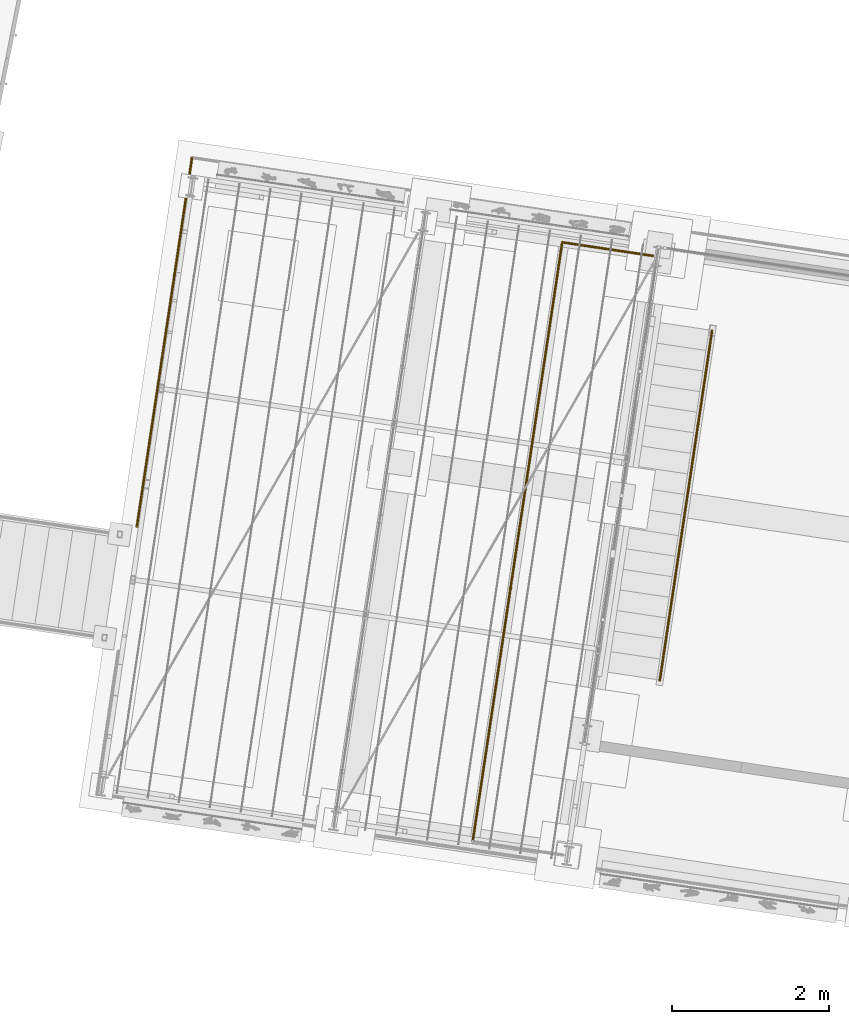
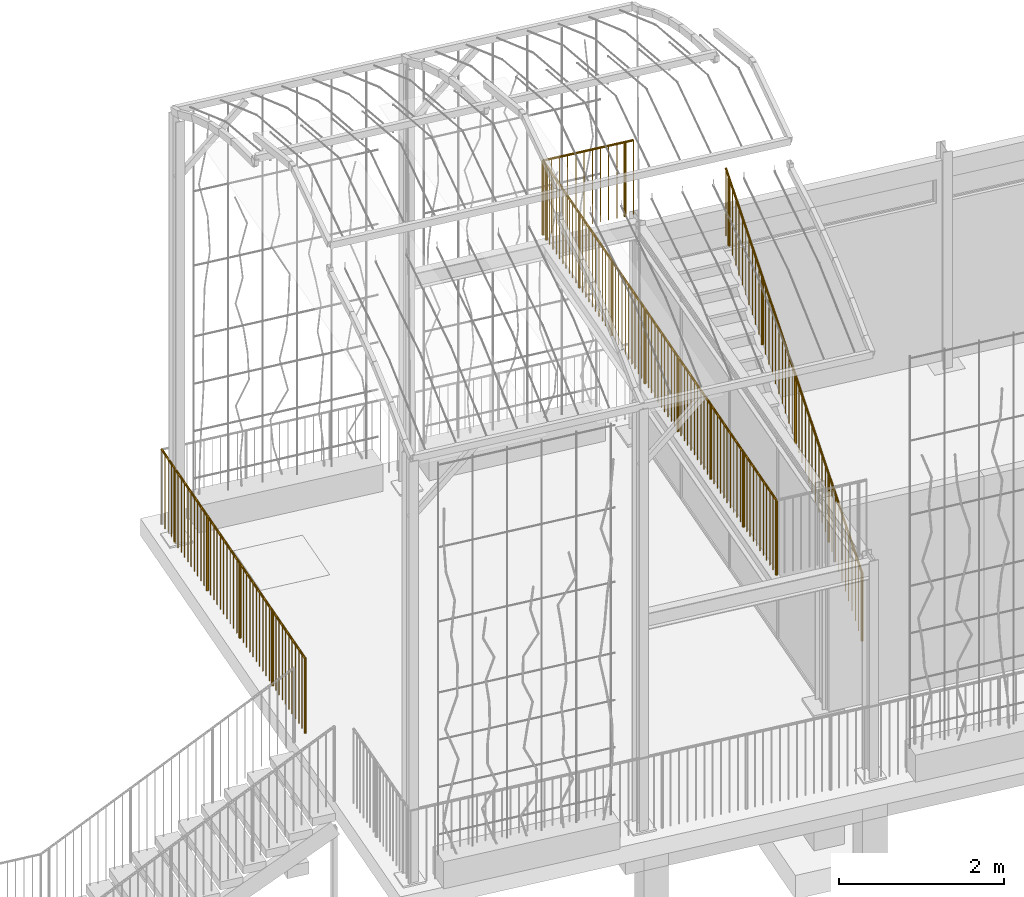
# One storey, part 138 of 142: 4 railings, 3 elements without a shape of their own.
"""IFC4 building model written with IfcOpenShell, lengths in metres."""

from ifc_helpers import new_model, si_unit, direction, frame, origin_with_axes, place, context, subcontext, project, spatial, circle, extrude, material, element, aggregate, save


model = new_model("IFC4")

# Units and contexts
model_context = context("Model", 3, precision=1e-05, world=origin_with_axes(), true_north=direction((0.0, 1.0)))
body_context = subcontext(model_context, "Body", "Model", "MODEL_VIEW")
ifc_project = project(units=[si_unit("LENGTHUNIT", "METRE"), si_unit("AREAUNIT", "SQUARE_METRE"), si_unit("VOLUMEUNIT", "CUBIC_METRE")], contexts=[model_context])

# Site, building, storey
site_placement = place(None, origin_with_axes())
site = spatial("IfcSite", under=ifc_project, at=site_placement, Name="Lares · Rua das Mercês · artigo 4771")
building_placement = place(site_placement, frame((15.0, 9.7, 14.65), z_axis=(0.0, 0.0, 1.0), x_axis=(0.989015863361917, -0.147809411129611, 0.0)))
building = spatial("IfcBuilding", under=site, at=building_placement, Name="Casa Sobreposta")
storey_placement = place(building_placement, origin_with_axes())
storey = spatial("IfcBuildingStorey", under=building, at=storey_placement, Name="00 · Habitação e estacionamento", Elevation=14.65)

# Stair, railing
stair_placement = place(storey_placement, origin_with_axes())
stair = element("IfcStair", 1, at=stair_placement, inside=storey, Name="Escada sala", PredefinedType="STRAIGHT_RUN_STAIR")
ifc_material = material(Name="Aço pintado / Stahl lackiert", Category="steel")
railing_1_placement = place(stair_placement, origin_with_axes())
railing_1 = element("IfcRailing", 2, at=railing_1_placement, material=ifc_material, Name="Corrimão sala", PredefinedType="GUARDRAIL", context=body_context, shape_type="SweptSolid", body=[
    extrude(circle(Radius=0.015), frame((0.83, 0.9475, 1.18), z_axis=(0.0, 0.827216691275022, 0.561883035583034), x_axis=(1.0, 0.0, 0.0)), (0.0, 0.0, 1.0), 5.44597328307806),
    extrude(circle(Radius=0.0175), frame((0.83, 0.9475, 0.18), z_axis=(0.0, 0.0, 1.0), x_axis=(1.0, 0.0, 0.0)), (0.0, 0.0, 1.0), 1.0),
    extrude(circle(Radius=0.006), frame((0.83, 1.05737804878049, 0.254634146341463), z_axis=(0.0, 0.0, 1.0), x_axis=(1.0, 0.0, 0.0)), (0.0, 0.0, 1.0), 1.0),
    extrude(circle(Radius=0.006), frame((0.83, 1.16725609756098, 0.329268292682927), z_axis=(0.0, 0.0, 1.0), x_axis=(1.0, 0.0, 0.0)), (0.0, 0.0, 1.0), 1.0),
    extrude(circle(Radius=0.006), frame((0.83, 1.27713414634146, 0.40390243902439), z_axis=(0.0, 0.0, 1.0), x_axis=(1.0, 0.0, 0.0)), (0.0, 0.0, 1.0), 1.0),
    extrude(circle(Radius=0.006), frame((0.83, 1.38701219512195, 0.478536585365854), z_axis=(0.0, 0.0, 1.0), x_axis=(1.0, 0.0, 0.0)), (0.0, 0.0, 1.0), 1.0),
    extrude(circle(Radius=0.006), frame((0.83, 1.49689024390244, 0.553170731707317), z_axis=(0.0, 0.0, 1.0), x_axis=(1.0, 0.0, 0.0)), (0.0, 0.0, 1.0), 1.0),
    extrude(circle(Radius=0.006), frame((0.83, 1.60676829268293, 0.62780487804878), z_axis=(0.0, 0.0, 1.0), x_axis=(1.0, 0.0, 0.0)), (0.0, 0.0, 1.0), 1.0),
    extrude(circle(Radius=0.006), frame((0.83, 1.71664634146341, 0.702439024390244), z_axis=(0.0, 0.0, 1.0), x_axis=(1.0, 0.0, 0.0)), (0.0, 0.0, 1.0), 1.0),
    extrude(circle(Radius=0.006), frame((0.83, 1.8265243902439, 0.777073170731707), z_axis=(0.0, 0.0, 1.0), x_axis=(1.0, 0.0, 0.0)), (0.0, 0.0, 1.0), 1.0),
    extrude(circle(Radius=0.006), frame((0.83, 1.93640243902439, 0.851707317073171), z_axis=(0.0, 0.0, 1.0), x_axis=(1.0, 0.0, 0.0)), (0.0, 0.0, 1.0), 1.0),
    extrude(circle(Radius=0.0175), frame((0.83, 2.04628048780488, 0.926341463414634), z_axis=(0.0, 0.0, 1.0), x_axis=(1.0, 0.0, 0.0)), (0.0, 0.0, 1.0), 1.0),
    extrude(circle(Radius=0.006), frame((0.83, 2.15615853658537, 1.0009756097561), z_axis=(0.0, 0.0, 1.0), x_axis=(1.0, 0.0, 0.0)), (0.0, 0.0, 1.0), 1.0),
    extrude(circle(Radius=0.006), frame((0.83, 2.26603658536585, 1.07560975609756), z_axis=(0.0, 0.0, 1.0), x_axis=(1.0, 0.0, 0.0)), (0.0, 0.0, 1.0), 1.0),
    extrude(circle(Radius=0.006), frame((0.83, 2.37591463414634, 1.15024390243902), z_axis=(0.0, 0.0, 1.0), x_axis=(1.0, 0.0, 0.0)), (0.0, 0.0, 1.0), 1.0),
    extrude(circle(Radius=0.006), frame((0.83, 2.48579268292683, 1.22487804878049), z_axis=(0.0, 0.0, 1.0), x_axis=(1.0, 0.0, 0.0)), (0.0, 0.0, 1.0), 1.0),
    extrude(circle(Radius=0.006), frame((0.83, 2.59567073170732, 1.29951219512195), z_axis=(0.0, 0.0, 1.0), x_axis=(1.0, 0.0, 0.0)), (0.0, 0.0, 1.0), 1.0),
    extrude(circle(Radius=0.006), frame((0.83, 2.7055487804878, 1.37414634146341), z_axis=(0.0, 0.0, 1.0), x_axis=(1.0, 0.0, 0.0)), (0.0, 0.0, 1.0), 1.0),
    extrude(circle(Radius=0.006), frame((0.83, 2.81542682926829, 1.44878048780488), z_axis=(0.0, 0.0, 1.0), x_axis=(1.0, 0.0, 0.0)), (0.0, 0.0, 1.0), 1.0),
    extrude(circle(Radius=0.006), frame((0.83, 2.92530487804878, 1.52341463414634), z_axis=(0.0, 0.0, 1.0), x_axis=(1.0, 0.0, 0.0)), (0.0, 0.0, 1.0), 1.0),
    extrude(circle(Radius=0.006), frame((0.83, 3.03518292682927, 1.5980487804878), z_axis=(0.0, 0.0, 1.0), x_axis=(1.0, 0.0, 0.0)), (0.0, 0.0, 1.0), 1.0),
    extrude(circle(Radius=0.0175), frame((0.83, 3.14506097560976, 1.67268292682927), z_axis=(0.0, 0.0, 1.0), x_axis=(1.0, 0.0, 0.0)), (0.0, 0.0, 1.0), 1.0),
    extrude(circle(Radius=0.006), frame((0.83, 3.25493902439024, 1.74731707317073), z_axis=(0.0, 0.0, 1.0), x_axis=(1.0, 0.0, 0.0)), (0.0, 0.0, 1.0), 1.0),
    extrude(circle(Radius=0.006), frame((0.83, 3.36481707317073, 1.8219512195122), z_axis=(0.0, 0.0, 1.0), x_axis=(1.0, 0.0, 0.0)), (0.0, 0.0, 1.0), 1.0),
    extrude(circle(Radius=0.006), frame((0.83, 3.47469512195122, 1.89658536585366), z_axis=(0.0, 0.0, 1.0), x_axis=(1.0, 0.0, 0.0)), (0.0, 0.0, 1.0), 1.0),
    extrude(circle(Radius=0.006), frame((0.83, 3.58457317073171, 1.97121951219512), z_axis=(0.0, 0.0, 1.0), x_axis=(1.0, 0.0, 0.0)), (0.0, 0.0, 1.0), 1.0),
    extrude(circle(Radius=0.006), frame((0.83, 3.6944512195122, 2.04585365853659), z_axis=(0.0, 0.0, 1.0), x_axis=(1.0, 0.0, 0.0)), (0.0, 0.0, 1.0), 1.0),
    extrude(circle(Radius=0.006), frame((0.83, 3.80432926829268, 2.12048780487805), z_axis=(0.0, 0.0, 1.0), x_axis=(1.0, 0.0, 0.0)), (0.0, 0.0, 1.0), 1.0),
    extrude(circle(Radius=0.006), frame((0.83, 3.91420731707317, 2.19512195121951), z_axis=(0.0, 0.0, 1.0), x_axis=(1.0, 0.0, 0.0)), (0.0, 0.0, 1.0), 1.0),
    extrude(circle(Radius=0.006), frame((0.83, 4.02408536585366, 2.26975609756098), z_axis=(0.0, 0.0, 1.0), x_axis=(1.0, 0.0, 0.0)), (0.0, 0.0, 1.0), 1.0),
    extrude(circle(Radius=0.006), frame((0.83, 4.13396341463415, 2.34439024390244), z_axis=(0.0, 0.0, 1.0), x_axis=(1.0, 0.0, 0.0)), (0.0, 0.0, 1.0), 1.0),
    extrude(circle(Radius=0.0175), frame((0.83, 4.24384146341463, 2.4190243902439), z_axis=(0.0, 0.0, 1.0), x_axis=(1.0, 0.0, 0.0)), (0.0, 0.0, 1.0), 1.0),
    extrude(circle(Radius=0.006), frame((0.83, 4.35371951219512, 2.49365853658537), z_axis=(0.0, 0.0, 1.0), x_axis=(1.0, 0.0, 0.0)), (0.0, 0.0, 1.0), 1.0),
    extrude(circle(Radius=0.006), frame((0.83, 4.46359756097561, 2.56829268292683), z_axis=(0.0, 0.0, 1.0), x_axis=(1.0, 0.0, 0.0)), (0.0, 0.0, 1.0), 1.0),
    extrude(circle(Radius=0.006), frame((0.83, 4.5734756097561, 2.64292682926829), z_axis=(0.0, 0.0, 1.0), x_axis=(1.0, 0.0, 0.0)), (0.0, 0.0, 1.0), 1.0),
    extrude(circle(Radius=0.006), frame((0.83, 4.68335365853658, 2.71756097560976), z_axis=(0.0, 0.0, 1.0), x_axis=(1.0, 0.0, 0.0)), (0.0, 0.0, 1.0), 1.0),
    extrude(circle(Radius=0.006), frame((0.83, 4.79323170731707, 2.79219512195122), z_axis=(0.0, 0.0, 1.0), x_axis=(1.0, 0.0, 0.0)), (0.0, 0.0, 1.0), 1.0),
    extrude(circle(Radius=0.006), frame((0.83, 4.90310975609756, 2.86682926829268), z_axis=(0.0, 0.0, 1.0), x_axis=(1.0, 0.0, 0.0)), (0.0, 0.0, 1.0), 1.0),
    extrude(circle(Radius=0.006), frame((0.83, 5.01298780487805, 2.94146341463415), z_axis=(0.0, 0.0, 1.0), x_axis=(1.0, 0.0, 0.0)), (0.0, 0.0, 1.0), 1.0),
    extrude(circle(Radius=0.006), frame((0.83, 5.12286585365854, 3.01609756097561), z_axis=(0.0, 0.0, 1.0), x_axis=(1.0, 0.0, 0.0)), (0.0, 0.0, 1.0), 1.0),
    extrude(circle(Radius=0.006), frame((0.83, 5.23274390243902, 3.09073170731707), z_axis=(0.0, 0.0, 1.0), x_axis=(1.0, 0.0, 0.0)), (0.0, 0.0, 1.0), 1.0),
    extrude(circle(Radius=0.0175), frame((0.83, 5.34262195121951, 3.16536585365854), z_axis=(0.0, 0.0, 1.0), x_axis=(1.0, 0.0, 0.0)), (0.0, 0.0, 1.0), 1.0),
    extrude(circle(Radius=0.006), frame((0.83, 5.4525, 3.24), z_axis=(0.0, 0.0, 1.0), x_axis=(1.0, 0.0, 0.0)), (0.0, 0.0, 1.0), 1.0),
])
aggregate(stair, [railing_1])

# Assembly, railing
assembly_1_placement = place(storey_placement, origin_with_axes())
assembly_1 = element("IfcElementAssembly", 3, at=assembly_1_placement, inside=storey, Name="Pódio · terraço, casa térrea e cisterna", ObjectType="CISTERN_PODIUM", PredefinedType="USERDEFINED")
railing_2_placement = place(assembly_1_placement, origin_with_axes())
railing_2 = element("IfcRailing", 4, at=railing_2_placement, material=ifc_material, Name="Pódio · guarda poente norte", PredefinedType="GUARDRAIL", context=body_context, shape_type="SweptSolid", body=[
    extrude(circle(Radius=0.015), frame((-6.05, 1.9, 1.06), z_axis=(0.0, 1.0, 0.0), x_axis=(1.0, 0.0, 0.0)), (0.0, 0.0, 1.0), 4.75),
    extrude(circle(Radius=0.0175), frame((-6.05, 1.9, -0.04), z_axis=(0.0, 0.0, 1.0), x_axis=(1.0, 0.0, 0.0)), (0.0, 0.0, 1.0), 1.1),
    extrude(circle(Radius=0.006), frame((-6.05, 2.00795454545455, -0.04), z_axis=(0.0, 0.0, 1.0), x_axis=(1.0, 0.0, 0.0)), (0.0, 0.0, 1.0), 1.1),
    extrude(circle(Radius=0.006), frame((-6.05, 2.11590909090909, -0.04), z_axis=(0.0, 0.0, 1.0), x_axis=(1.0, 0.0, 0.0)), (0.0, 0.0, 1.0), 1.1),
    extrude(circle(Radius=0.006), frame((-6.05, 2.22386363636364, -0.04), z_axis=(0.0, 0.0, 1.0), x_axis=(1.0, 0.0, 0.0)), (0.0, 0.0, 1.0), 1.1),
    extrude(circle(Radius=0.006), frame((-6.05, 2.33181818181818, -0.04), z_axis=(0.0, 0.0, 1.0), x_axis=(1.0, 0.0, 0.0)), (0.0, 0.0, 1.0), 1.1),
    extrude(circle(Radius=0.006), frame((-6.05, 2.43977272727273, -0.04), z_axis=(0.0, 0.0, 1.0), x_axis=(1.0, 0.0, 0.0)), (0.0, 0.0, 1.0), 1.1),
    extrude(circle(Radius=0.006), frame((-6.05, 2.54772727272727, -0.04), z_axis=(0.0, 0.0, 1.0), x_axis=(1.0, 0.0, 0.0)), (0.0, 0.0, 1.0), 1.1),
    extrude(circle(Radius=0.006), frame((-6.05, 2.65568181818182, -0.04), z_axis=(0.0, 0.0, 1.0), x_axis=(1.0, 0.0, 0.0)), (0.0, 0.0, 1.0), 1.1),
    extrude(circle(Radius=0.006), frame((-6.05, 2.76363636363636, -0.04), z_axis=(0.0, 0.0, 1.0), x_axis=(1.0, 0.0, 0.0)), (0.0, 0.0, 1.0), 1.1),
    extrude(circle(Radius=0.006), frame((-6.05, 2.87159090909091, -0.04), z_axis=(0.0, 0.0, 1.0), x_axis=(1.0, 0.0, 0.0)), (0.0, 0.0, 1.0), 1.1),
    extrude(circle(Radius=0.0175), frame((-6.05, 2.97954545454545, -0.04), z_axis=(0.0, 0.0, 1.0), x_axis=(1.0, 0.0, 0.0)), (0.0, 0.0, 1.0), 1.1),
    extrude(circle(Radius=0.006), frame((-6.05, 3.0875, -0.04), z_axis=(0.0, 0.0, 1.0), x_axis=(1.0, 0.0, 0.0)), (0.0, 0.0, 1.0), 1.1),
    extrude(circle(Radius=0.006), frame((-6.05, 3.19545454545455, -0.04), z_axis=(0.0, 0.0, 1.0), x_axis=(1.0, 0.0, 0.0)), (0.0, 0.0, 1.0), 1.1),
    extrude(circle(Radius=0.006), frame((-6.05, 3.30340909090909, -0.04), z_axis=(0.0, 0.0, 1.0), x_axis=(1.0, 0.0, 0.0)), (0.0, 0.0, 1.0), 1.1),
    extrude(circle(Radius=0.006), frame((-6.05, 3.41136363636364, -0.04), z_axis=(0.0, 0.0, 1.0), x_axis=(1.0, 0.0, 0.0)), (0.0, 0.0, 1.0), 1.1),
    extrude(circle(Radius=0.006), frame((-6.05, 3.51931818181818, -0.04), z_axis=(0.0, 0.0, 1.0), x_axis=(1.0, 0.0, 0.0)), (0.0, 0.0, 1.0), 1.1),
    extrude(circle(Radius=0.006), frame((-6.05, 3.62727272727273, -0.04), z_axis=(0.0, 0.0, 1.0), x_axis=(1.0, 0.0, 0.0)), (0.0, 0.0, 1.0), 1.1),
    extrude(circle(Radius=0.006), frame((-6.05, 3.73522727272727, -0.04), z_axis=(0.0, 0.0, 1.0), x_axis=(1.0, 0.0, 0.0)), (0.0, 0.0, 1.0), 1.1),
    extrude(circle(Radius=0.006), frame((-6.05, 3.84318181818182, -0.04), z_axis=(0.0, 0.0, 1.0), x_axis=(1.0, 0.0, 0.0)), (0.0, 0.0, 1.0), 1.1),
    extrude(circle(Radius=0.006), frame((-6.05, 3.95113636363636, -0.04), z_axis=(0.0, 0.0, 1.0), x_axis=(1.0, 0.0, 0.0)), (0.0, 0.0, 1.0), 1.1),
    extrude(circle(Radius=0.0175), frame((-6.05, 4.05909090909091, -0.04), z_axis=(0.0, 0.0, 1.0), x_axis=(1.0, 0.0, 0.0)), (0.0, 0.0, 1.0), 1.1),
    extrude(circle(Radius=0.006), frame((-6.05, 4.16704545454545, -0.04), z_axis=(0.0, 0.0, 1.0), x_axis=(1.0, 0.0, 0.0)), (0.0, 0.0, 1.0), 1.1),
    extrude(circle(Radius=0.006), frame((-6.05, 4.275, -0.04), z_axis=(0.0, 0.0, 1.0), x_axis=(1.0, 0.0, 0.0)), (0.0, 0.0, 1.0), 1.1),
    extrude(circle(Radius=0.006), frame((-6.05, 4.38295454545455, -0.04), z_axis=(0.0, 0.0, 1.0), x_axis=(1.0, 0.0, 0.0)), (0.0, 0.0, 1.0), 1.1),
    extrude(circle(Radius=0.006), frame((-6.05, 4.49090909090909, -0.04), z_axis=(0.0, 0.0, 1.0), x_axis=(1.0, 0.0, 0.0)), (0.0, 0.0, 1.0), 1.1),
    extrude(circle(Radius=0.006), frame((-6.05, 4.59886363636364, -0.04), z_axis=(0.0, 0.0, 1.0), x_axis=(1.0, 0.0, 0.0)), (0.0, 0.0, 1.0), 1.1),
    extrude(circle(Radius=0.006), frame((-6.05, 4.70681818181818, -0.04), z_axis=(0.0, 0.0, 1.0), x_axis=(1.0, 0.0, 0.0)), (0.0, 0.0, 1.0), 1.1),
    extrude(circle(Radius=0.006), frame((-6.05, 4.81477272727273, -0.04), z_axis=(0.0, 0.0, 1.0), x_axis=(1.0, 0.0, 0.0)), (0.0, 0.0, 1.0), 1.1),
    extrude(circle(Radius=0.006), frame((-6.05, 4.92272727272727, -0.04), z_axis=(0.0, 0.0, 1.0), x_axis=(1.0, 0.0, 0.0)), (0.0, 0.0, 1.0), 1.1),
    extrude(circle(Radius=0.006), frame((-6.05, 5.03068181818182, -0.04), z_axis=(0.0, 0.0, 1.0), x_axis=(1.0, 0.0, 0.0)), (0.0, 0.0, 1.0), 1.1),
    extrude(circle(Radius=0.0175), frame((-6.05, 5.13863636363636, -0.04), z_axis=(0.0, 0.0, 1.0), x_axis=(1.0, 0.0, 0.0)), (0.0, 0.0, 1.0), 1.1),
    extrude(circle(Radius=0.006), frame((-6.05, 5.24659090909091, -0.04), z_axis=(0.0, 0.0, 1.0), x_axis=(1.0, 0.0, 0.0)), (0.0, 0.0, 1.0), 1.1),
    extrude(circle(Radius=0.006), frame((-6.05, 5.35454545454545, -0.04), z_axis=(0.0, 0.0, 1.0), x_axis=(1.0, 0.0, 0.0)), (0.0, 0.0, 1.0), 1.1),
    extrude(circle(Radius=0.006), frame((-6.05, 5.4625, -0.04), z_axis=(0.0, 0.0, 1.0), x_axis=(1.0, 0.0, 0.0)), (0.0, 0.0, 1.0), 1.1),
    extrude(circle(Radius=0.006), frame((-6.05, 5.57045454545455, -0.04), z_axis=(0.0, 0.0, 1.0), x_axis=(1.0, 0.0, 0.0)), (0.0, 0.0, 1.0), 1.1),
    extrude(circle(Radius=0.006), frame((-6.05, 5.67840909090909, -0.04), z_axis=(0.0, 0.0, 1.0), x_axis=(1.0, 0.0, 0.0)), (0.0, 0.0, 1.0), 1.1),
    extrude(circle(Radius=0.006), frame((-6.05, 5.78636363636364, -0.04), z_axis=(0.0, 0.0, 1.0), x_axis=(1.0, 0.0, 0.0)), (0.0, 0.0, 1.0), 1.1),
    extrude(circle(Radius=0.006), frame((-6.05, 5.89431818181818, -0.04), z_axis=(0.0, 0.0, 1.0), x_axis=(1.0, 0.0, 0.0)), (0.0, 0.0, 1.0), 1.1),
    extrude(circle(Radius=0.006), frame((-6.05, 6.00227272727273, -0.04), z_axis=(0.0, 0.0, 1.0), x_axis=(1.0, 0.0, 0.0)), (0.0, 0.0, 1.0), 1.1),
    extrude(circle(Radius=0.006), frame((-6.05, 6.11022727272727, -0.04), z_axis=(0.0, 0.0, 1.0), x_axis=(1.0, 0.0, 0.0)), (0.0, 0.0, 1.0), 1.1),
    extrude(circle(Radius=0.0175), frame((-6.05, 6.21818181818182, -0.04), z_axis=(0.0, 0.0, 1.0), x_axis=(1.0, 0.0, 0.0)), (0.0, 0.0, 1.0), 1.1),
    extrude(circle(Radius=0.006), frame((-6.05, 6.32613636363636, -0.04), z_axis=(0.0, 0.0, 1.0), x_axis=(1.0, 0.0, 0.0)), (0.0, 0.0, 1.0), 1.1),
    extrude(circle(Radius=0.006), frame((-6.05, 6.43409090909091, -0.04), z_axis=(0.0, 0.0, 1.0), x_axis=(1.0, 0.0, 0.0)), (0.0, 0.0, 1.0), 1.1),
    extrude(circle(Radius=0.006), frame((-6.05, 6.54204545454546, -0.04), z_axis=(0.0, 0.0, 1.0), x_axis=(1.0, 0.0, 0.0)), (0.0, 0.0, 1.0), 1.1),
    extrude(circle(Radius=0.006), frame((-6.05, 6.65, -0.04), z_axis=(0.0, 0.0, 1.0), x_axis=(1.0, 0.0, 0.0)), (0.0, 0.0, 1.0), 1.1),
])
aggregate(assembly_1, [railing_2])

# Assembly, railings
assembly_2_placement = place(storey_placement, origin_with_axes())
assembly_2 = element("IfcElementAssembly", 5, at=assembly_2_placement, inside=storey, Name="Pérgola · prolongamento da estufa 6 m", ObjectType="PERGOLA_GREENHOUSE_EXTENSION", PredefinedType="USERDEFINED")
railing_3_placement = place(assembly_2_placement, origin_with_axes())
railing_3 = element("IfcRailing", 6, at=railing_3_placement, material=ifc_material, Name="Varanda · guarda", PredefinedType="GUARDRAIL", context=body_context, shape_type="SweptSolid", body=[
    extrude(circle(Radius=0.015), frame((-1.225, -1.44, 4.34), z_axis=(0.0, 1.0, 0.0), x_axis=(1.0, 0.0, 0.0)), (0.0, 0.0, 1.0), 7.72),
    extrude(circle(Radius=0.0175), frame((-1.225, -1.44, 3.24), z_axis=(0.0, 0.0, 1.0), x_axis=(1.0, 0.0, 0.0)), (0.0, 0.0, 1.0), 1.1),
    extrude(circle(Radius=0.006), frame((-1.225, -1.3312676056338, 3.24), z_axis=(0.0, 0.0, 1.0), x_axis=(1.0, 0.0, 0.0)), (0.0, 0.0, 1.0), 1.1),
    extrude(circle(Radius=0.006), frame((-1.225, -1.22253521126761, 3.24), z_axis=(0.0, 0.0, 1.0), x_axis=(1.0, 0.0, 0.0)), (0.0, 0.0, 1.0), 1.1),
    extrude(circle(Radius=0.006), frame((-1.225, -1.11380281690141, 3.24), z_axis=(0.0, 0.0, 1.0), x_axis=(1.0, 0.0, 0.0)), (0.0, 0.0, 1.0), 1.1),
    extrude(circle(Radius=0.006), frame((-1.225, -1.00507042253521, 3.24), z_axis=(0.0, 0.0, 1.0), x_axis=(1.0, 0.0, 0.0)), (0.0, 0.0, 1.0), 1.1),
    extrude(circle(Radius=0.006), frame((-1.225, -0.896338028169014, 3.24), z_axis=(0.0, 0.0, 1.0), x_axis=(1.0, 0.0, 0.0)), (0.0, 0.0, 1.0), 1.1),
    extrude(circle(Radius=0.006), frame((-1.225, -0.787605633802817, 3.24), z_axis=(0.0, 0.0, 1.0), x_axis=(1.0, 0.0, 0.0)), (0.0, 0.0, 1.0), 1.1),
    extrude(circle(Radius=0.006), frame((-1.225, -0.67887323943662, 3.24), z_axis=(0.0, 0.0, 1.0), x_axis=(1.0, 0.0, 0.0)), (0.0, 0.0, 1.0), 1.1),
    extrude(circle(Radius=0.006), frame((-1.225, -0.570140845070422, 3.24), z_axis=(0.0, 0.0, 1.0), x_axis=(1.0, 0.0, 0.0)), (0.0, 0.0, 1.0), 1.1),
    extrude(circle(Radius=0.006), frame((-1.225, -0.461408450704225, 3.24), z_axis=(0.0, 0.0, 1.0), x_axis=(1.0, 0.0, 0.0)), (0.0, 0.0, 1.0), 1.1),
    extrude(circle(Radius=0.0175), frame((-1.225, -0.352676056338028, 3.24), z_axis=(0.0, 0.0, 1.0), x_axis=(1.0, 0.0, 0.0)), (0.0, 0.0, 1.0), 1.1),
    extrude(circle(Radius=0.006), frame((-1.225, -0.243943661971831, 3.24), z_axis=(0.0, 0.0, 1.0), x_axis=(1.0, 0.0, 0.0)), (0.0, 0.0, 1.0), 1.1),
    extrude(circle(Radius=0.006), frame((-1.225, -0.135211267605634, 3.24), z_axis=(0.0, 0.0, 1.0), x_axis=(1.0, 0.0, 0.0)), (0.0, 0.0, 1.0), 1.1),
    extrude(circle(Radius=0.006), frame((-1.225, -0.0264788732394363, 3.24), z_axis=(0.0, 0.0, 1.0), x_axis=(1.0, 0.0, 0.0)), (0.0, 0.0, 1.0), 1.1),
    extrude(circle(Radius=0.006), frame((-1.225, 0.0822535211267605, 3.24), z_axis=(0.0, 0.0, 1.0), x_axis=(1.0, 0.0, 0.0)), (0.0, 0.0, 1.0), 1.1),
    extrude(circle(Radius=0.006), frame((-1.225, 0.190985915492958, 3.24), z_axis=(0.0, 0.0, 1.0), x_axis=(1.0, 0.0, 0.0)), (0.0, 0.0, 1.0), 1.1),
    extrude(circle(Radius=0.006), frame((-1.225, 0.299718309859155, 3.24), z_axis=(0.0, 0.0, 1.0), x_axis=(1.0, 0.0, 0.0)), (0.0, 0.0, 1.0), 1.1),
    extrude(circle(Radius=0.006), frame((-1.225, 0.408450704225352, 3.24), z_axis=(0.0, 0.0, 1.0), x_axis=(1.0, 0.0, 0.0)), (0.0, 0.0, 1.0), 1.1),
    extrude(circle(Radius=0.006), frame((-1.225, 0.51718309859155, 3.24), z_axis=(0.0, 0.0, 1.0), x_axis=(1.0, 0.0, 0.0)), (0.0, 0.0, 1.0), 1.1),
    extrude(circle(Radius=0.006), frame((-1.225, 0.625915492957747, 3.24), z_axis=(0.0, 0.0, 1.0), x_axis=(1.0, 0.0, 0.0)), (0.0, 0.0, 1.0), 1.1),
    extrude(circle(Radius=0.0175), frame((-1.225, 0.734647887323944, 3.24), z_axis=(0.0, 0.0, 1.0), x_axis=(1.0, 0.0, 0.0)), (0.0, 0.0, 1.0), 1.1),
    extrude(circle(Radius=0.006), frame((-1.225, 0.843380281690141, 3.24), z_axis=(0.0, 0.0, 1.0), x_axis=(1.0, 0.0, 0.0)), (0.0, 0.0, 1.0), 1.1),
    extrude(circle(Radius=0.006), frame((-1.225, 0.952112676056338, 3.24), z_axis=(0.0, 0.0, 1.0), x_axis=(1.0, 0.0, 0.0)), (0.0, 0.0, 1.0), 1.1),
    extrude(circle(Radius=0.006), frame((-1.225, 1.06084507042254, 3.24), z_axis=(0.0, 0.0, 1.0), x_axis=(1.0, 0.0, 0.0)), (0.0, 0.0, 1.0), 1.1),
    extrude(circle(Radius=0.006), frame((-1.225, 1.16957746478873, 3.24), z_axis=(0.0, 0.0, 1.0), x_axis=(1.0, 0.0, 0.0)), (0.0, 0.0, 1.0), 1.1),
    extrude(circle(Radius=0.006), frame((-1.225, 1.27830985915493, 3.24), z_axis=(0.0, 0.0, 1.0), x_axis=(1.0, 0.0, 0.0)), (0.0, 0.0, 1.0), 1.1),
    extrude(circle(Radius=0.006), frame((-1.225, 1.38704225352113, 3.24), z_axis=(0.0, 0.0, 1.0), x_axis=(1.0, 0.0, 0.0)), (0.0, 0.0, 1.0), 1.1),
    extrude(circle(Radius=0.006), frame((-1.225, 1.49577464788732, 3.24), z_axis=(0.0, 0.0, 1.0), x_axis=(1.0, 0.0, 0.0)), (0.0, 0.0, 1.0), 1.1),
    extrude(circle(Radius=0.006), frame((-1.225, 1.60450704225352, 3.24), z_axis=(0.0, 0.0, 1.0), x_axis=(1.0, 0.0, 0.0)), (0.0, 0.0, 1.0), 1.1),
    extrude(circle(Radius=0.006), frame((-1.225, 1.71323943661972, 3.24), z_axis=(0.0, 0.0, 1.0), x_axis=(1.0, 0.0, 0.0)), (0.0, 0.0, 1.0), 1.1),
    extrude(circle(Radius=0.0175), frame((-1.225, 1.82197183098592, 3.24), z_axis=(0.0, 0.0, 1.0), x_axis=(1.0, 0.0, 0.0)), (0.0, 0.0, 1.0), 1.1),
    extrude(circle(Radius=0.006), frame((-1.225, 1.93070422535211, 3.24), z_axis=(0.0, 0.0, 1.0), x_axis=(1.0, 0.0, 0.0)), (0.0, 0.0, 1.0), 1.1),
    extrude(circle(Radius=0.006), frame((-1.225, 2.03943661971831, 3.24), z_axis=(0.0, 0.0, 1.0), x_axis=(1.0, 0.0, 0.0)), (0.0, 0.0, 1.0), 1.1),
    extrude(circle(Radius=0.006), frame((-1.225, 2.14816901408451, 3.24), z_axis=(0.0, 0.0, 1.0), x_axis=(1.0, 0.0, 0.0)), (0.0, 0.0, 1.0), 1.1),
    extrude(circle(Radius=0.006), frame((-1.225, 2.2569014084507, 3.24), z_axis=(0.0, 0.0, 1.0), x_axis=(1.0, 0.0, 0.0)), (0.0, 0.0, 1.0), 1.1),
    extrude(circle(Radius=0.006), frame((-1.225, 2.3656338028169, 3.24), z_axis=(0.0, 0.0, 1.0), x_axis=(1.0, 0.0, 0.0)), (0.0, 0.0, 1.0), 1.1),
    extrude(circle(Radius=0.006), frame((-1.225, 2.4743661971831, 3.24), z_axis=(0.0, 0.0, 1.0), x_axis=(1.0, 0.0, 0.0)), (0.0, 0.0, 1.0), 1.1),
    extrude(circle(Radius=0.006), frame((-1.225, 2.5830985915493, 3.24), z_axis=(0.0, 0.0, 1.0), x_axis=(1.0, 0.0, 0.0)), (0.0, 0.0, 1.0), 1.1),
    extrude(circle(Radius=0.006), frame((-1.225, 2.69183098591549, 3.24), z_axis=(0.0, 0.0, 1.0), x_axis=(1.0, 0.0, 0.0)), (0.0, 0.0, 1.0), 1.1),
    extrude(circle(Radius=0.006), frame((-1.225, 2.80056338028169, 3.24), z_axis=(0.0, 0.0, 1.0), x_axis=(1.0, 0.0, 0.0)), (0.0, 0.0, 1.0), 1.1),
    extrude(circle(Radius=0.0175), frame((-1.225, 2.90929577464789, 3.24), z_axis=(0.0, 0.0, 1.0), x_axis=(1.0, 0.0, 0.0)), (0.0, 0.0, 1.0), 1.1),
    extrude(circle(Radius=0.006), frame((-1.225, 3.01802816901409, 3.24), z_axis=(0.0, 0.0, 1.0), x_axis=(1.0, 0.0, 0.0)), (0.0, 0.0, 1.0), 1.1),
    extrude(circle(Radius=0.006), frame((-1.225, 3.12676056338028, 3.24), z_axis=(0.0, 0.0, 1.0), x_axis=(1.0, 0.0, 0.0)), (0.0, 0.0, 1.0), 1.1),
    extrude(circle(Radius=0.006), frame((-1.225, 3.23549295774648, 3.24), z_axis=(0.0, 0.0, 1.0), x_axis=(1.0, 0.0, 0.0)), (0.0, 0.0, 1.0), 1.1),
    extrude(circle(Radius=0.006), frame((-1.225, 3.34422535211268, 3.24), z_axis=(0.0, 0.0, 1.0), x_axis=(1.0, 0.0, 0.0)), (0.0, 0.0, 1.0), 1.1),
    extrude(circle(Radius=0.006), frame((-1.225, 3.45295774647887, 3.24), z_axis=(0.0, 0.0, 1.0), x_axis=(1.0, 0.0, 0.0)), (0.0, 0.0, 1.0), 1.1),
    extrude(circle(Radius=0.006), frame((-1.225, 3.56169014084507, 3.24), z_axis=(0.0, 0.0, 1.0), x_axis=(1.0, 0.0, 0.0)), (0.0, 0.0, 1.0), 1.1),
    extrude(circle(Radius=0.006), frame((-1.225, 3.67042253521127, 3.24), z_axis=(0.0, 0.0, 1.0), x_axis=(1.0, 0.0, 0.0)), (0.0, 0.0, 1.0), 1.1),
    extrude(circle(Radius=0.006), frame((-1.225, 3.77915492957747, 3.24), z_axis=(0.0, 0.0, 1.0), x_axis=(1.0, 0.0, 0.0)), (0.0, 0.0, 1.0), 1.1),
    extrude(circle(Radius=0.006), frame((-1.225, 3.88788732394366, 3.24), z_axis=(0.0, 0.0, 1.0), x_axis=(1.0, 0.0, 0.0)), (0.0, 0.0, 1.0), 1.1),
    extrude(circle(Radius=0.0175), frame((-1.225, 3.99661971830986, 3.24), z_axis=(0.0, 0.0, 1.0), x_axis=(1.0, 0.0, 0.0)), (0.0, 0.0, 1.0), 1.1),
    extrude(circle(Radius=0.006), frame((-1.225, 4.10535211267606, 3.24), z_axis=(0.0, 0.0, 1.0), x_axis=(1.0, 0.0, 0.0)), (0.0, 0.0, 1.0), 1.1),
    extrude(circle(Radius=0.006), frame((-1.225, 4.21408450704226, 3.24), z_axis=(0.0, 0.0, 1.0), x_axis=(1.0, 0.0, 0.0)), (0.0, 0.0, 1.0), 1.1),
    extrude(circle(Radius=0.006), frame((-1.225, 4.32281690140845, 3.24), z_axis=(0.0, 0.0, 1.0), x_axis=(1.0, 0.0, 0.0)), (0.0, 0.0, 1.0), 1.1),
    extrude(circle(Radius=0.006), frame((-1.225, 4.43154929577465, 3.24), z_axis=(0.0, 0.0, 1.0), x_axis=(1.0, 0.0, 0.0)), (0.0, 0.0, 1.0), 1.1),
    extrude(circle(Radius=0.006), frame((-1.225, 4.54028169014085, 3.24), z_axis=(0.0, 0.0, 1.0), x_axis=(1.0, 0.0, 0.0)), (0.0, 0.0, 1.0), 1.1),
    extrude(circle(Radius=0.006), frame((-1.225, 4.64901408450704, 3.24), z_axis=(0.0, 0.0, 1.0), x_axis=(1.0, 0.0, 0.0)), (0.0, 0.0, 1.0), 1.1),
    extrude(circle(Radius=0.006), frame((-1.225, 4.75774647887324, 3.24), z_axis=(0.0, 0.0, 1.0), x_axis=(1.0, 0.0, 0.0)), (0.0, 0.0, 1.0), 1.1),
    extrude(circle(Radius=0.006), frame((-1.225, 4.86647887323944, 3.24), z_axis=(0.0, 0.0, 1.0), x_axis=(1.0, 0.0, 0.0)), (0.0, 0.0, 1.0), 1.1),
    extrude(circle(Radius=0.006), frame((-1.225, 4.97521126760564, 3.24), z_axis=(0.0, 0.0, 1.0), x_axis=(1.0, 0.0, 0.0)), (0.0, 0.0, 1.0), 1.1),
    extrude(circle(Radius=0.0175), frame((-1.225, 5.08394366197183, 3.24), z_axis=(0.0, 0.0, 1.0), x_axis=(1.0, 0.0, 0.0)), (0.0, 0.0, 1.0), 1.1),
    extrude(circle(Radius=0.006), frame((-1.225, 5.19267605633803, 3.24), z_axis=(0.0, 0.0, 1.0), x_axis=(1.0, 0.0, 0.0)), (0.0, 0.0, 1.0), 1.1),
    extrude(circle(Radius=0.006), frame((-1.225, 5.30140845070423, 3.24), z_axis=(0.0, 0.0, 1.0), x_axis=(1.0, 0.0, 0.0)), (0.0, 0.0, 1.0), 1.1),
    extrude(circle(Radius=0.006), frame((-1.225, 5.41014084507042, 3.24), z_axis=(0.0, 0.0, 1.0), x_axis=(1.0, 0.0, 0.0)), (0.0, 0.0, 1.0), 1.1),
    extrude(circle(Radius=0.006), frame((-1.225, 5.51887323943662, 3.24), z_axis=(0.0, 0.0, 1.0), x_axis=(1.0, 0.0, 0.0)), (0.0, 0.0, 1.0), 1.1),
    extrude(circle(Radius=0.006), frame((-1.225, 5.62760563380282, 3.24), z_axis=(0.0, 0.0, 1.0), x_axis=(1.0, 0.0, 0.0)), (0.0, 0.0, 1.0), 1.1),
    extrude(circle(Radius=0.006), frame((-1.225, 5.73633802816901, 3.24), z_axis=(0.0, 0.0, 1.0), x_axis=(1.0, 0.0, 0.0)), (0.0, 0.0, 1.0), 1.1),
    extrude(circle(Radius=0.006), frame((-1.225, 5.84507042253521, 3.24), z_axis=(0.0, 0.0, 1.0), x_axis=(1.0, 0.0, 0.0)), (0.0, 0.0, 1.0), 1.1),
    extrude(circle(Radius=0.006), frame((-1.225, 5.95380281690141, 3.24), z_axis=(0.0, 0.0, 1.0), x_axis=(1.0, 0.0, 0.0)), (0.0, 0.0, 1.0), 1.1),
    extrude(circle(Radius=0.006), frame((-1.225, 6.06253521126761, 3.24), z_axis=(0.0, 0.0, 1.0), x_axis=(1.0, 0.0, 0.0)), (0.0, 0.0, 1.0), 1.1),
    extrude(circle(Radius=0.0175), frame((-1.225, 6.1712676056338, 3.24), z_axis=(0.0, 0.0, 1.0), x_axis=(1.0, 0.0, 0.0)), (0.0, 0.0, 1.0), 1.1),
    extrude(circle(Radius=0.006), frame((-1.225, 6.28, 3.24), z_axis=(0.0, 0.0, 1.0), x_axis=(1.0, 0.0, 0.0)), (0.0, 0.0, 1.0), 1.1),
])
railing_4_placement = place(assembly_2_placement, origin_with_axes())
railing_4 = element("IfcRailing", 7, at=railing_4_placement, material=ifc_material, Name="Varanda · guarda", PredefinedType="GUARDRAIL", context=body_context, shape_type="SweptSolid", body=[
    extrude(circle(Radius=0.015), frame((-1.225, 6.28, 4.34), z_axis=(1.0, 0.0, 0.0), x_axis=(0.0, -1.0, 0.0)), (0.0, 0.0, 1.0), 1.175),
    extrude(circle(Radius=0.0175), frame((-1.225, 6.28, 3.24), z_axis=(0.0, 0.0, 1.0), x_axis=(1.0, 0.0, 0.0)), (0.0, 0.0, 1.0), 1.1),
    extrude(circle(Radius=0.006), frame((-1.11818181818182, 6.28, 3.24), z_axis=(0.0, 0.0, 1.0), x_axis=(1.0, 0.0, 0.0)), (0.0, 0.0, 1.0), 1.1),
    extrude(circle(Radius=0.006), frame((-1.01136363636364, 6.28, 3.24), z_axis=(0.0, 0.0, 1.0), x_axis=(1.0, 0.0, 0.0)), (0.0, 0.0, 1.0), 1.1),
    extrude(circle(Radius=0.006), frame((-0.904545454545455, 6.28, 3.24), z_axis=(0.0, 0.0, 1.0), x_axis=(1.0, 0.0, 0.0)), (0.0, 0.0, 1.0), 1.1),
    extrude(circle(Radius=0.006), frame((-0.797727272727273, 6.28, 3.24), z_axis=(0.0, 0.0, 1.0), x_axis=(1.0, 0.0, 0.0)), (0.0, 0.0, 1.0), 1.1),
    extrude(circle(Radius=0.006), frame((-0.690909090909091, 6.28, 3.24), z_axis=(0.0, 0.0, 1.0), x_axis=(1.0, 0.0, 0.0)), (0.0, 0.0, 1.0), 1.1),
    extrude(circle(Radius=0.006), frame((-0.584090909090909, 6.28, 3.24), z_axis=(0.0, 0.0, 1.0), x_axis=(1.0, 0.0, 0.0)), (0.0, 0.0, 1.0), 1.1),
    extrude(circle(Radius=0.006), frame((-0.477272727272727, 6.28, 3.24), z_axis=(0.0, 0.0, 1.0), x_axis=(1.0, 0.0, 0.0)), (0.0, 0.0, 1.0), 1.1),
    extrude(circle(Radius=0.006), frame((-0.370454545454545, 6.28, 3.24), z_axis=(0.0, 0.0, 1.0), x_axis=(1.0, 0.0, 0.0)), (0.0, 0.0, 1.0), 1.1),
    extrude(circle(Radius=0.006), frame((-0.263636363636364, 6.28, 3.24), z_axis=(0.0, 0.0, 1.0), x_axis=(1.0, 0.0, 0.0)), (0.0, 0.0, 1.0), 1.1),
    extrude(circle(Radius=0.0175), frame((-0.156818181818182, 6.28, 3.24), z_axis=(0.0, 0.0, 1.0), x_axis=(1.0, 0.0, 0.0)), (0.0, 0.0, 1.0), 1.1),
    extrude(circle(Radius=0.006), frame((-0.05, 6.28, 3.24), z_axis=(0.0, 0.0, 1.0), x_axis=(1.0, 0.0, 0.0)), (0.0, 0.0, 1.0), 1.1),
])
aggregate(assembly_2, [railing_3, railing_4])

save(model, "model.ifc")
